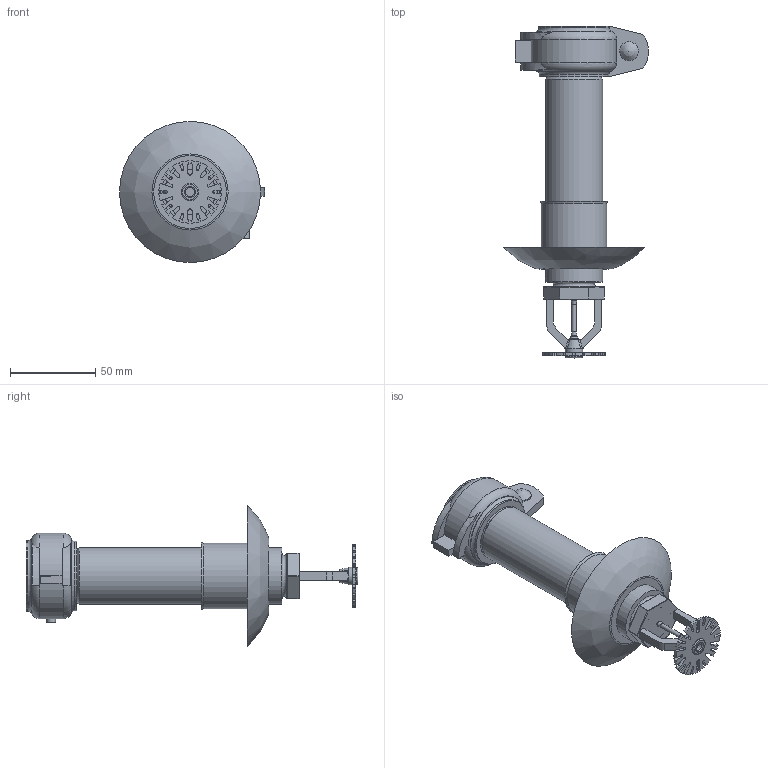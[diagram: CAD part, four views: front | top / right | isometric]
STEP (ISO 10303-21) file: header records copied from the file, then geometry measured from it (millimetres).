
FILE_DESCRIPTION(/* description */ ('VIC SPRINKLER V3613 K5.6 DRY PENDENT STANDARD RESPONSE w/V9 (IGS)'),/* implementation_level */ '2;1');
FILE_NAME(/* name */ 'C:\Users\Public\Documents\Victaulic.Temp\A161\Victaulic_FP-Sprinkler_V3613_DRY_SR_Pendent_V9 (IGS)_SLV_SKT_1 (25).stp',/* time_stamp */ '2024-09-24T08:10:43+02:00',/* author */ ('kkamble'),/* organization */ ('Victaulic'),/* preprocessor_version */ 'ST-DEVELOPER v18',/* originating_system */ 'Autodesk Inventor 2020',/* authorisation */ '');
FILE_SCHEMA (('AUTOMOTIVE_DESIGN { 1 0 10303 214 3 1 1 }'));
Length unit declared in the file: inch
Products named in the file (3): V3613_Sleeve & Skirt-01.0; V3613 _Sleeve & Skirt; V9-01.0x01.0
Assembly tree (2 placements, depth 2):
  V3613_Sleeve & Skirt-01.0
    V3613 _Sleeve & Skirt
    V9-01.0x01.0
Bounding box: 84.84 x 194.18 x 82.55 mm (x, y, z)
Volume: 113973.9 mm3; surface area: 57225.8 mm2
Topology: 2 solids, 2 shells, 293 faces, 802 edges, 526 vertices
Faces by surface type: plane 143, cylinder 107, torus 13, sphere 12, bspline 10, cone 8
Full cylindrical faces by diameter (mm): 2.54 x1, 5.08 x3, 6.35 x1, 10.16 x2, 11.112 x1, 20.93 x1, 26.645 x2, 30.226 x1, 33.401 x5, 36.703 x1, 37.465 x1, 38.481 x1, 45.974 x2
Entity records: 10164 total; most frequent: CARTESIAN_POINT 2098, DIRECTION 1658, ORIENTED_EDGE 1594, EDGE_CURVE 797, AXIS2_PLACEMENT_3D 614, VERTEX_POINT 526, LINE 430, VECTOR 430
